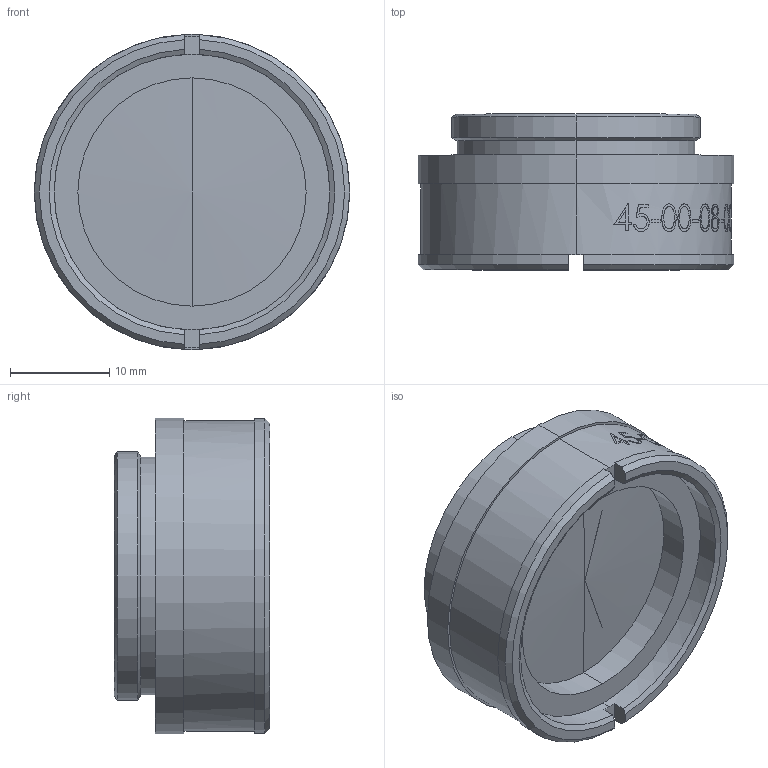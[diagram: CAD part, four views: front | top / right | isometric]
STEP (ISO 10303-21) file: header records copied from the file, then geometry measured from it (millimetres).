
FILE_DESCRIPTION (( 'STEP AP203' ), '1' );
FILE_NAME ('45-00-08-000 OUTLINE.STEP', '2020-08-17T20:49:44', ( '' ), ( '' ), 'SwSTEP 2.0', 'SolidWorks 2018', '' );
FILE_SCHEMA (( 'CONFIG_CONTROL_DESIGN' ));
Length unit declared in the file: millimetre
Products named in the file (1): 45-00-08-000 OUTLINE
Bounding box: 31.75 x 15.66 x 31.75 mm (x, y, z)
Volume: 6497 mm3; surface area: 3852.4 mm2
Topology: 1 solids, 1 shells, 262 faces, 660 edges, 434 vertices
Faces by surface type: bspline 128, plane 73, cylinder 49, cone 12
Entity records: 25783 total; most frequent: CARTESIAN_POINT 20495, ORIENTED_EDGE 1312, EDGE_CURVE 656, DIRECTION 639, VERTEX_POINT 434, B_SPLINE_CURVE_WITH_KNOTS 405, EDGE_LOOP 300, FACE_OUTER_BOUND 262
